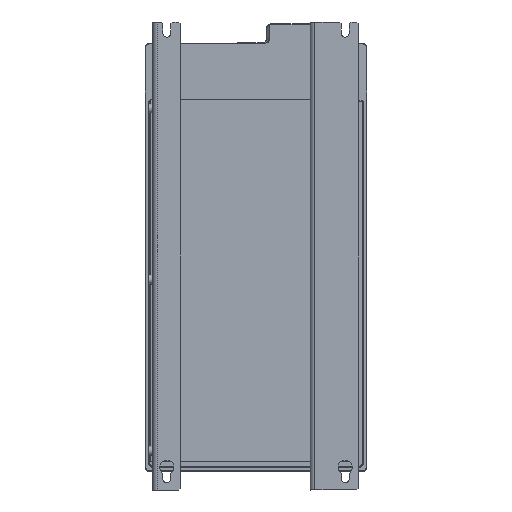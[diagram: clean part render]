
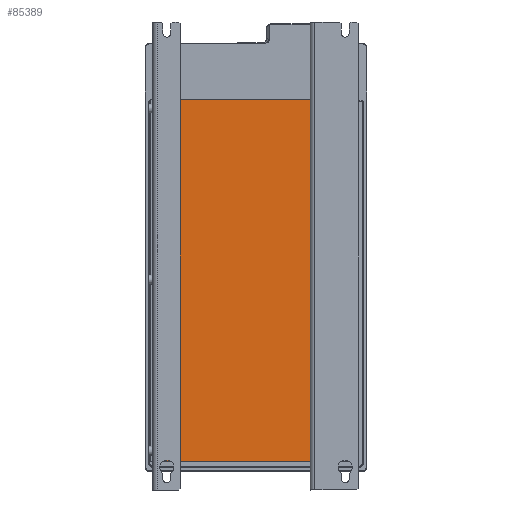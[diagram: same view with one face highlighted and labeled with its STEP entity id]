
A CAD part, front view. The second image highlights one B-rep face of the part: STEP entity #85389.
In plain terms, the highlighted planar face has unit normal (0, -1, 0).
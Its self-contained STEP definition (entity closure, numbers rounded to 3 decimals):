
#13001 = LINE ( 'NONE', #101212, #41933 ) ;
#14989 = LINE ( 'NONE', #56474, #102310 ) ;
#15914 = LINE ( 'NONE', #103562, #38026 ) ;
#18405 = CARTESIAN_POINT ( 'NONE',  ( 87.5, -15.5, 231.5 ) ) ;
#24560 = VERTEX_POINT ( 'NONE', #103328 ) ;
#28559 = EDGE_CURVE ( 'NONE', #24560, #92720, #14989, .T. ) ;
#32834 = DIRECTION ( 'NONE',  ( 1., 0., 0. ) ) ;
#36817 = VERTEX_POINT ( 'NONE', #65355 ) ;
#38026 = VECTOR ( 'NONE', #45849, 1000. ) ;
#41933 = VECTOR ( 'NONE', #102235, 1000. ) ;
#42145 = DIRECTION ( 'NONE',  ( 0., 1., 0. ) ) ;
#45395 = EDGE_LOOP ( 'NONE', ( #102670, #62234, #88336, #93348 ) ) ;
#45849 = DIRECTION ( 'NONE',  ( 0., 0., 1. ) ) ;
#53503 = EDGE_CURVE ( 'NONE', #36817, #24560, #15914, .T. ) ;
#56474 = CARTESIAN_POINT ( 'NONE',  ( -91.5, -15.5, 231.5 ) ) ;
#56653 = VERTEX_POINT ( 'NONE', #83980 ) ;
#57677 = LINE ( 'NONE', #96530, #61372 ) ;
#61372 = VECTOR ( 'NONE', #89178, 1000. ) ;
#62234 = ORIENTED_EDGE ( 'NONE', *, *, #89665, .T. ) ;
#65355 = CARTESIAN_POINT ( 'NONE',  ( -87.5, -15.5, -173.5 ) ) ;
#72714 = AXIS2_PLACEMENT_3D ( 'NONE', #81042, #42145, #74167 ) ;
#74167 = DIRECTION ( 'NONE',  ( 0., 0., 1. ) ) ;
#79889 = EDGE_CURVE ( 'NONE', #92720, #56653, #13001, .T. ) ;
#81042 = CARTESIAN_POINT ( 'NONE',  ( -91.5, -15.5, 231.5 ) ) ;
#82063 = PLANE ( 'NONE',  #72714 ) ;
#83980 = CARTESIAN_POINT ( 'NONE',  ( 87.5, -15.5, -173.5 ) ) ;
#85389 = ADVANCED_FACE ( 'NONE', ( #98311 ), #82063, .F. ) ;
#88336 = ORIENTED_EDGE ( 'NONE', *, *, #79889, .F. ) ;
#89178 = DIRECTION ( 'NONE',  ( 1., 0., 0. ) ) ;
#89665 = EDGE_CURVE ( 'NONE', #36817, #56653, #57677, .T. ) ;
#92720 = VERTEX_POINT ( 'NONE', #18405 ) ;
#93348 = ORIENTED_EDGE ( 'NONE', *, *, #28559, .F. ) ;
#96530 = CARTESIAN_POINT ( 'NONE',  ( -91.5, -15.5, -173.5 ) ) ;
#98311 = FACE_OUTER_BOUND ( 'NONE', #45395, .T. ) ;
#101212 = CARTESIAN_POINT ( 'NONE',  ( 87.5, -15.5, -192. ) ) ;
#102235 = DIRECTION ( 'NONE',  ( 0., 0., -1. ) ) ;
#102310 = VECTOR ( 'NONE', #32834, 1000. ) ;
#102670 = ORIENTED_EDGE ( 'NONE', *, *, #53503, .F. ) ;
#103328 = CARTESIAN_POINT ( 'NONE',  ( -87.5, -15.5, 231.5 ) ) ;
#103562 = CARTESIAN_POINT ( 'NONE',  ( -87.5, -15.5, 230.3 ) ) ;
